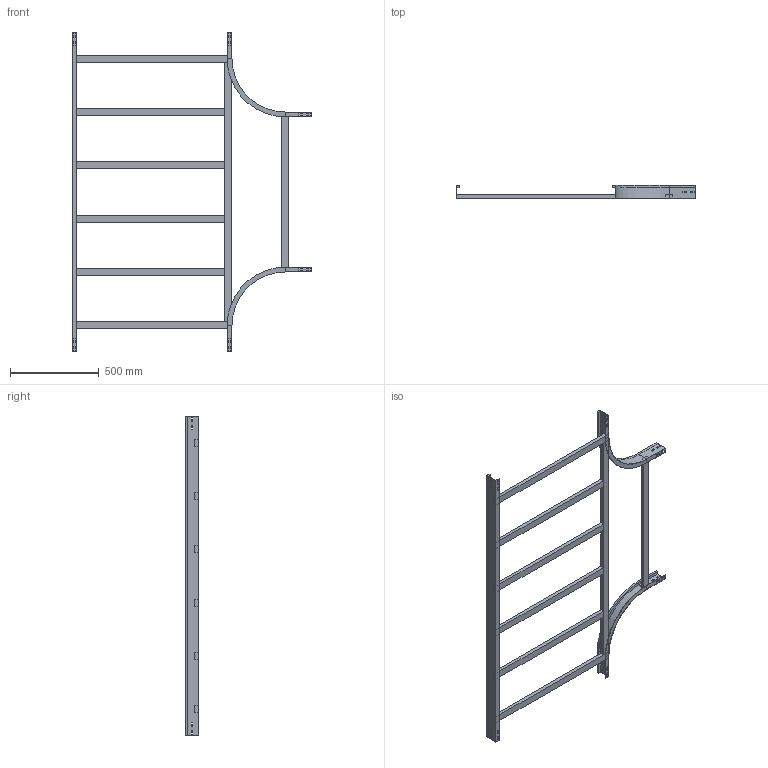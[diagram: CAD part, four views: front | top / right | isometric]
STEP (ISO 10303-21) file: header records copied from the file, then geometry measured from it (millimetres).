
FILE_DESCRIPTION (( 'STEP AP214' ), '1' );
FILE_NAME ('A2_15B3C900.step', '2025-02-21T15:53:30', ( '' ), ( '' ), 'SwSTEP 2.0', 'SolidWorks 2023', '' );
FILE_SCHEMA (( 'AUTOMOTIVE_DESIGN' ));
Length unit declared in the file: millimetre
Products named in the file (6): TRAVERSINO_INTERMEDIO_R300+900; A2_LONGH.RETT_H75_R300+900; A2_15B3C900; TRAVERSINO_900; A2_TRAVERSINO_LONG._R300+900; A2_LONGH.INTERNO 90°_H75_R300
Assembly tree (11 placements, depth 2):
  A2_15B3C900
    A2_LONGH.INTERNO 90°_H75_R300  x2
    A2_LONGH.RETT_H75_R300+900
    TRAVERSINO_900  x3
    A2_TRAVERSINO_LONG._R300+900
    TRAVERSINO_INTERMEDIO_R300+900  x4
Bounding box: 1350 x 75 x 1800 mm (x, y, z)
Volume: 7442935 mm3; surface area: 1719965.3 mm2
Topology: 11 solids, 11 shells, 206 faces, 520 edges, 336 vertices
Faces by surface type: plane 198, cylinder 8
Entity records: 3831 total; most frequent: CARTESIAN_POINT 640, ORIENTED_EDGE 616, DIRECTION 580, EDGE_CURVE 308, VECTOR 300, LINE 300, VERTEX_POINT 200, EDGE_LOOP 150
